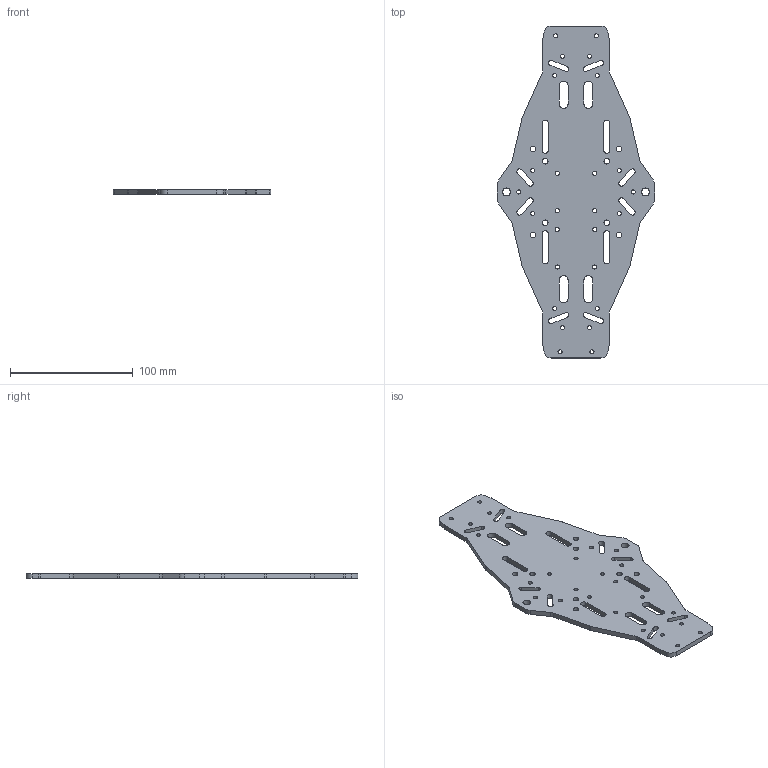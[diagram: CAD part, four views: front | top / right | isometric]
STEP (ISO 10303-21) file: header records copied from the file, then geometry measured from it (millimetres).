
FILE_DESCRIPTION(('FreeCAD Model'),'2;1');
FILE_NAME('Open CASCADE Shape Model','2026-10-17T00:49:20',(''),(''), 'Open CASCADE STEP processor 7.8','FreeCAD','Unknown');
FILE_SCHEMA(('AUTOMOTIVE_DESIGN { 1 0 10303 214 1 1 1 1 }'));
Length unit declared in the file: millimetre
Products named in the file (1): 01 Platine centrale
Bounding box: 128 x 270 x 4 mm (x, y, z)
Volume: 79877.1 mm3; surface area: 47365.4 mm2
Topology: 1 solids, 1 shells, 150 faces, 444 edges, 296 vertices
Faces by surface type: cylinder 92, plane 58
Full cylindrical faces by diameter (mm): 3.3 x26, 4.5 x8, 6.5 x2
Entity records: 5310 total; most frequent: DIRECTION 930, CARTESIAN_POINT 891, ORIENTED_EDGE 888, EDGE_CURVE 444, AXIS2_PLACEMENT_3D 335, VERTEX_POINT 296, LINE 260, VECTOR 260
